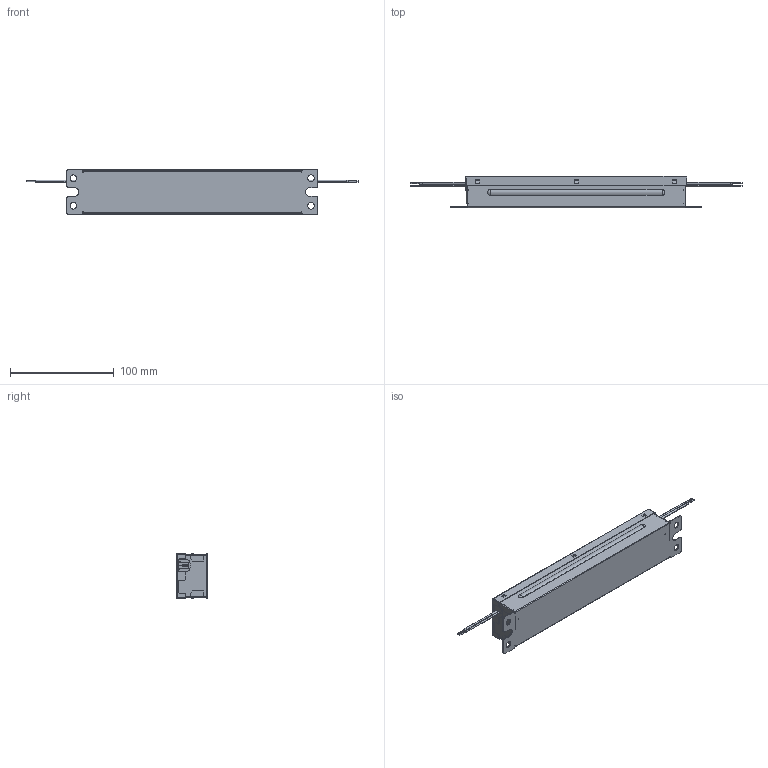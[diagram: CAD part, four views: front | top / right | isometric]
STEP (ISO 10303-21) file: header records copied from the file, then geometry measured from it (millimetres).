
FILE_DESCRIPTION (( 'STEP AP203' ), '1' );
FILE_NAME ('3D_USVI-100024FR1.STEP', '2020-11-12T06:40:49', ( '' ), ( '' ), 'SwSTEP 2.0', 'SolidWorks 2016', '' );
FILE_SCHEMA (( 'CONFIG_CONTROL_DESIGN' ));
Length unit declared in the file: millimetre
Products named in the file (14): Base_A Can(2孔); Base Side_A Can; Black wire; White wire-L; SR (2 Wires); Red wire-L ; Black wire-L; Red wire; Base Side R_A Can; White wire; Base Body_A Can; FG wire; 3D_USVI-100024FR1; Cover_A Can (4孔)
Assembly tree (16 placements, depth 3):
  3D_USVI-100024FR1
    Base_A Can(2孔)
      Base Body_A Can
      Base Side_A Can
      Base Side R_A Can
    Cover_A Can (4孔)
    SR (2 Wires)  x2
    Black wire  x2
    White wire
    Red wire
    FG wire
    Black wire-L  x2
    White wire-L
    Red wire-L 
Bounding box: 319.4 x 30 x 43.4 mm (x, y, z)
Volume: 25384.1 mm3; surface area: 82775.3 mm2
Topology: 15 solids, 15 shells, 618 faces, 1556 edges, 984 vertices
Faces by surface type: plane 420, cylinder 172, torus 18, sphere 8
Entity records: 18228 total; most frequent: DIRECTION 2908, CARTESIAN_POINT 2877, ORIENTED_EDGE 2820, EDGE_CURVE 1410, VECTOR 1070, LINE 1070, AXIS2_PLACEMENT_3D 919, VERTEX_POINT 888
